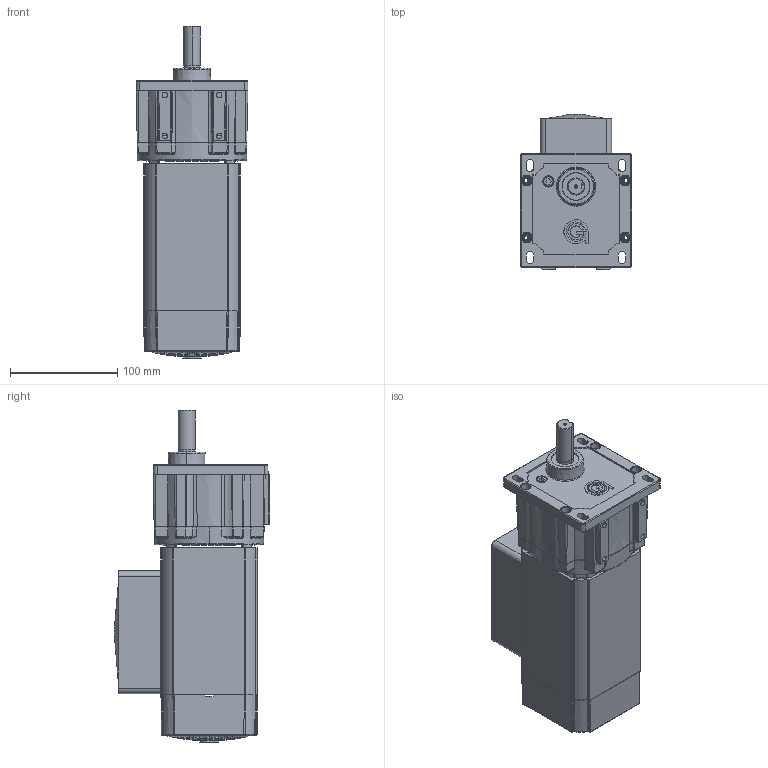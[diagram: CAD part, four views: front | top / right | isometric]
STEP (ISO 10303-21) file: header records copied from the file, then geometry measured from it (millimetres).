
FILE_DESCRIPTION (( 'STEP AP203' ), '1' );
FILE_NAME ('OUTLINE AC8060FC-PS2100.STEP', '2006-11-16T13:55:34', ( 'Groschopp' ), ( 'Groschopp' ), 'SwSTEP 2.0', 'SolidWorks 2007', '' );
FILE_SCHEMA (( 'CONFIG_CONTROL_DESIGN' ));
Length unit declared in the file: inch
Products named in the file (1): OUTLINE AC8060FC-PS2100
Bounding box: 104.29 x 144.68 x 309.49 mm (x, y, z)
Surface area: 235765.3 mm2 (no closed solid volume)
Topology: 0 solids, 25 shells, 1183 faces, 3736 edges, 2484 vertices
Faces by surface type: plane 623, cylinder 241, cone 105, torus 97, bspline 83, sphere 34
Entity records: 44715 total; most frequent: CARTESIAN_POINT 11734, DIRECTION 7374, ORIENTED_EDGE 6287, EDGE_CURVE 3696, AXIS2_PLACEMENT_3D 2925, VERTEX_POINT 2484, CIRCLE 1824, VECTOR 1524
